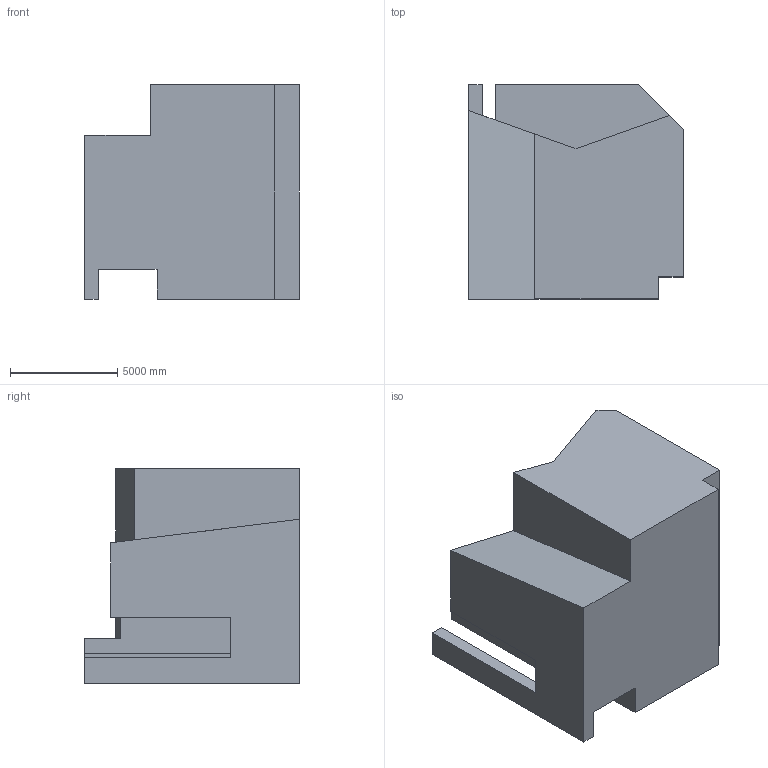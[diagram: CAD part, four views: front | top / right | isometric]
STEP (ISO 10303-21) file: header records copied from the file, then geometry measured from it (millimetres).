
FILE_DESCRIPTION (( 'STEP AP203' ), '1' );
FILE_NAME ('1668.STEP', '2022-08-19T11:32:44', ( 'user' ), ( '' ), 'SwSTEP 2.0', 'SolidWorks 2021', '' );
FILE_SCHEMA (( 'CONFIG_CONTROL_DESIGN' ));
Length unit declared in the file: centimetre
Products named in the file (1): 1668
Bounding box: 10000 x 10000 x 10000 mm (x, y, z)
Volume: 688618047311 mm3; surface area: 571615367.7 mm2
Topology: 1 solids, 1 shells, 26 faces, 72 edges, 48 vertices
Faces by surface type: plane 26
Entity records: 893 total; most frequent: CARTESIAN_POINT 147, ORIENTED_EDGE 144, DIRECTION 126, VECTOR 72, LINE 72, EDGE_CURVE 72, VERTEX_POINT 48, AXIS2_PLACEMENT_3D 27
